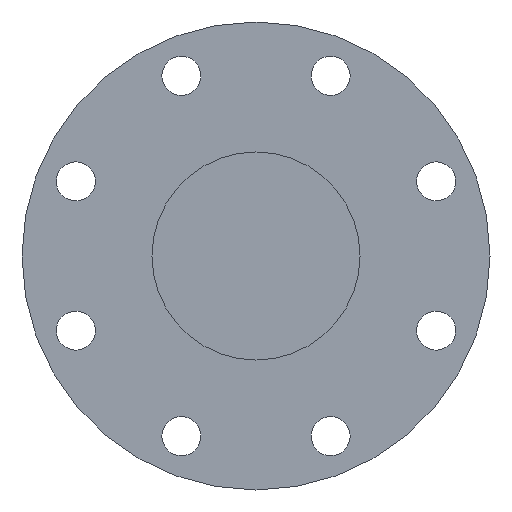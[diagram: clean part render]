
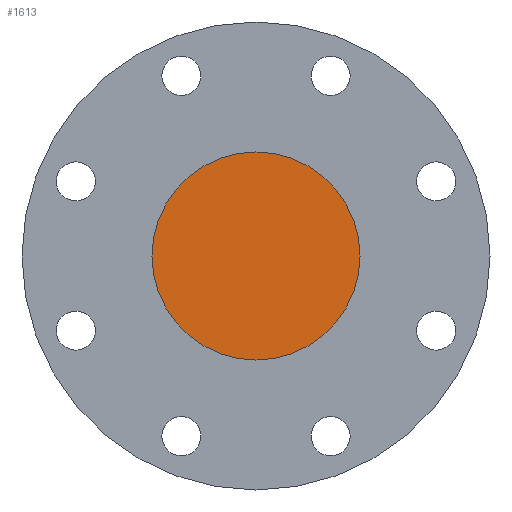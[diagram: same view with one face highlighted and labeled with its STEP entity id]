
A CAD part, left-side view. The second image highlights one B-rep face of the part: STEP entity #1613.
In plain terms, the highlighted planar face has unit normal (-1, 0, 0).
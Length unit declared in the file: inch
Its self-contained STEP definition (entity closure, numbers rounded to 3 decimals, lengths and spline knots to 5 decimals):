
#105 = ORIENTED_EDGE ( 'NONE', *, *, #8458, .T. ) ;
#500 = EDGE_CURVE ( 'NONE', #5508, #4055, #1251, .T. ) ;
#562 = FACE_OUTER_BOUND ( 'NONE', #3014, .T. ) ;
#1251 = CIRCLE ( 'NONE', #5392, 2. ) ;
#1613 = ADVANCED_FACE ( 'NONE', ( #562 ), #7625, .F. ) ;
#2520 = CARTESIAN_POINT ( 'NONE',  ( -4.09785, 0., -2. ) ) ;
#2800 = AXIS2_PLACEMENT_3D ( 'NONE', #5560, #8358, #4086 ) ;
#3014 = EDGE_LOOP ( 'NONE', ( #7595, #105 ) ) ;
#3227 = AXIS2_PLACEMENT_3D ( 'NONE', #6801, #4774, #4034 ) ;
#3312 = CARTESIAN_POINT ( 'NONE',  ( -4.09785, 0., 0. ) ) ;
#4034 = DIRECTION ( 'NONE',  ( 0., 0., -1. ) ) ;
#4051 = DIRECTION ( 'NONE',  ( 0., 0., -1. ) ) ;
#4055 = VERTEX_POINT ( 'NONE', #2520 ) ;
#4086 = DIRECTION ( 'NONE',  ( 0., 0., -1. ) ) ;
#4774 = DIRECTION ( 'NONE',  ( 1., 0., 0. ) ) ;
#5392 = AXIS2_PLACEMENT_3D ( 'NONE', #3312, #5555, #4051 ) ;
#5508 = VERTEX_POINT ( 'NONE', #8080 ) ;
#5555 = DIRECTION ( 'NONE',  ( -1., 0., 0. ) ) ;
#5560 = CARTESIAN_POINT ( 'NONE',  ( -4.09785, 0., 0. ) ) ;
#6801 = CARTESIAN_POINT ( 'NONE',  ( -4.09785, 2.10485, 0. ) ) ;
#7595 = ORIENTED_EDGE ( 'NONE', *, *, #500, .T. ) ;
#7625 = PLANE ( 'NONE',  #3227 ) ;
#8005 = CIRCLE ( 'NONE', #2800, 2. ) ;
#8080 = CARTESIAN_POINT ( 'NONE',  ( -4.09785, 0., 2. ) ) ;
#8358 = DIRECTION ( 'NONE',  ( -1., 0., 0. ) ) ;
#8458 = EDGE_CURVE ( 'NONE', #4055, #5508, #8005, .T. ) ;
